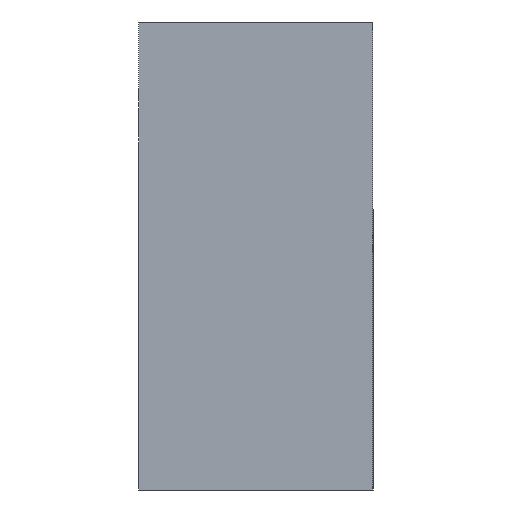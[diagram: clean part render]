
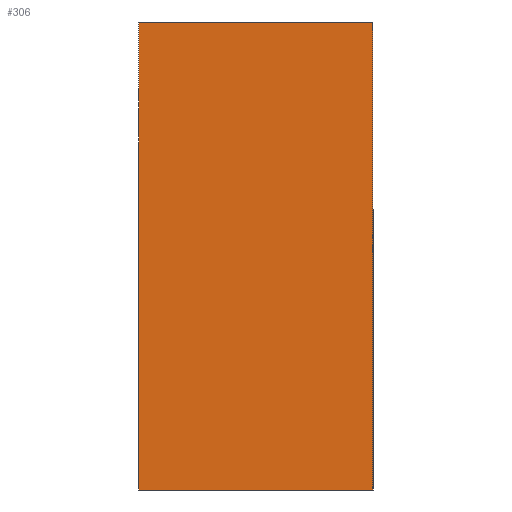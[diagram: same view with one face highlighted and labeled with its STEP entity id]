
A CAD part, left-side view. The second image highlights one B-rep face of the part: STEP entity #306.
In plain terms, the highlighted planar face has unit normal (-1, 0, 0).
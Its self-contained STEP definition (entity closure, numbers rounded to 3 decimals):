
#306=ADVANCED_FACE('',(#376),#364,.T.);
#364=PLANE('',#972);
#376=FACE_OUTER_BOUND('',#390,.T.);
#390=EDGE_LOOP('',(#539,#540,#541,#542));
#539=ORIENTED_EDGE('',*,*,#822,.F.);
#540=ORIENTED_EDGE('',*,*,#823,.F.);
#541=ORIENTED_EDGE('',*,*,#824,.T.);
#542=ORIENTED_EDGE('',*,*,#820,.T.);
#721=VERTEX_POINT('',#1356);
#722=VERTEX_POINT('',#1358);
#723=VERTEX_POINT('',#1362);
#724=VERTEX_POINT('',#1364);
#820=EDGE_CURVE('',#722,#721,#909,.T.);
#822=EDGE_CURVE('',#723,#721,#911,.T.);
#823=EDGE_CURVE('',#724,#723,#912,.T.);
#824=EDGE_CURVE('',#724,#722,#913,.T.);
#909=LINE('',#1357,#941);
#911=LINE('',#1361,#943);
#912=LINE('',#1363,#944);
#913=LINE('',#1365,#945);
#941=VECTOR('',#1102,1.);
#943=VECTOR('',#1106,1.);
#944=VECTOR('',#1107,1.);
#945=VECTOR('',#1108,1.);
#972=AXIS2_PLACEMENT_3D('',#1366,#1109,#1110);
#1102=DIRECTION('',(0.,0.,1.));
#1106=DIRECTION('',(0.,-1.,0.));
#1107=DIRECTION('',(0.,0.,1.));
#1108=DIRECTION('',(0.,-1.,0.));
#1109=DIRECTION('',(-1.,0.,0.));
#1110=DIRECTION('',(0.,-1.,0.));
#1356=CARTESIAN_POINT('',(0.,0.,0.));
#1357=CARTESIAN_POINT('',(0.,0.,-20.));
#1358=CARTESIAN_POINT('',(0.,0.,-20.));
#1361=CARTESIAN_POINT('',(0.,10.,0.));
#1362=CARTESIAN_POINT('',(0.,10.,0.));
#1363=CARTESIAN_POINT('',(0.,10.,-20.));
#1364=CARTESIAN_POINT('',(0.,10.,-20.));
#1365=CARTESIAN_POINT('',(0.,10.,-20.));
#1366=CARTESIAN_POINT('',(0.,10.,-20.));
